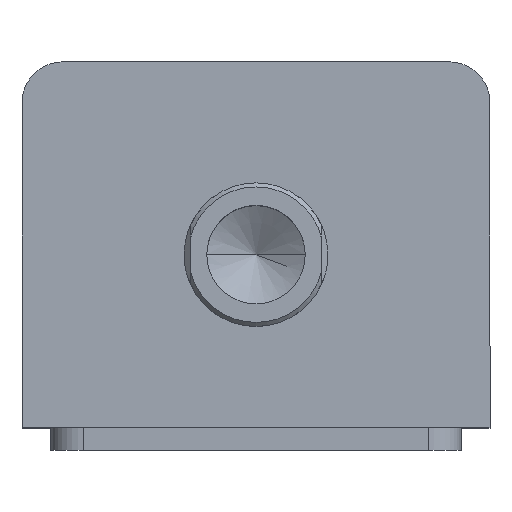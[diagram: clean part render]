
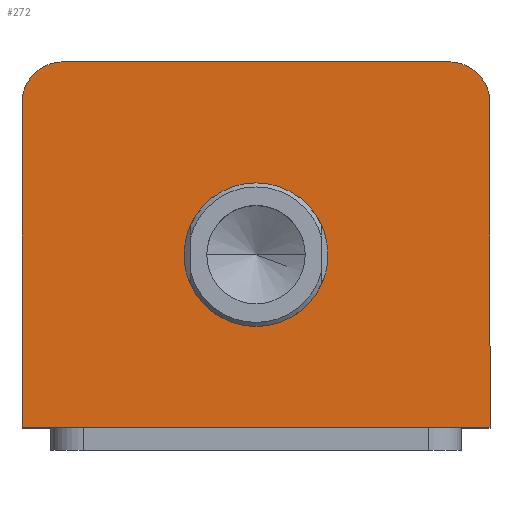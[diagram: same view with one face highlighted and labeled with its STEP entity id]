
A CAD part, top view. The second image highlights one B-rep face of the part: STEP entity #272.
In plain terms, the highlighted planar face has unit normal (0, 0, 1).
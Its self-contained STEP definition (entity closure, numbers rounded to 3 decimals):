
#166 = CARTESIAN_POINT ( 'NONE',  ( -17.5, -2.5, 162. ) ) ;
#167 = CARTESIAN_POINT ( 'NONE',  ( -57., -44.5, 162. ) ) ;
#272 = ADVANCED_FACE ( 'NONE', ( #1934, #1942 ), #1125, .T. ) ;
#461 = ORIENTED_EDGE ( 'NONE', *, *, #3586, .F. ) ;
#462 = ORIENTED_EDGE ( 'NONE', *, *, #3547, .F. ) ;
#463 = ORIENTED_EDGE ( 'NONE', *, *, #3368, .T. ) ;
#464 = ORIENTED_EDGE ( 'NONE', *, *, #3422, .T. ) ;
#465 = ORIENTED_EDGE ( 'NONE', *, *, #3423, .T. ) ;
#466 = ORIENTED_EDGE ( 'NONE', *, *, #3538, .T. ) ;
#467 = ORIENTED_EDGE ( 'NONE', *, *, #3145, .T. ) ;
#468 = ORIENTED_EDGE ( 'NONE', *, *, #3356, .T. ) ;
#746 = LINE ( 'NONE', #976, #749 ) ;
#749 = VECTOR ( 'NONE', #977, 1000. ) ;
#812 = CIRCLE ( 'NONE', #3210, 10. ) ;
#814 = LINE ( 'NONE', #2431, #816 ) ;
#816 = VECTOR ( 'NONE', #2438, 1000. ) ;
#854 = DIRECTION ( 'NONE',  ( 0., 1., 0. ) ) ;
#865 = CARTESIAN_POINT ( 'NONE',  ( 57., 44.5, 162. ) ) ;
#963 = CARTESIAN_POINT ( 'NONE',  ( 47., 34.5, 162. ) ) ;
#964 = DIRECTION ( 'NONE',  ( 0., 0., 1. ) ) ;
#965 = DIRECTION ( 'NONE',  ( 1., 0., 0. ) ) ;
#976 = CARTESIAN_POINT ( 'NONE',  ( -57., 44.5, 162. ) ) ;
#977 = DIRECTION ( 'NONE',  ( -1., 0., 0. ) ) ;
#1072 = CARTESIAN_POINT ( 'NONE',  ( 0., -2.5, 162. ) ) ;
#1073 = DIRECTION ( 'NONE',  ( 0., 0., 1. ) ) ;
#1074 = DIRECTION ( 'NONE',  ( 1., 0., 0. ) ) ;
#1121 = CARTESIAN_POINT ( 'NONE',  ( 0., 0., 162. ) ) ;
#1125 = PLANE ( 'NONE',  #3351 ) ;
#1130 = DIRECTION ( 'NONE',  ( 0., 0., 1. ) ) ;
#1131 = DIRECTION ( 'NONE',  ( 1., 0., 0. ) ) ;
#1244 = LINE ( 'NONE', #1491, #1245 ) ;
#1245 = VECTOR ( 'NONE', #1492, 1000. ) ;
#1247 = CIRCLE ( 'NONE', #3160, 17.5 ) ;
#1308 = CIRCLE ( 'NONE', #3148, 17.5 ) ;
#1491 = CARTESIAN_POINT ( 'NONE',  ( -57., -44.5, 162. ) ) ;
#1492 = DIRECTION ( 'NONE',  ( 1., 0., 0. ) ) ;
#1513 = CARTESIAN_POINT ( 'NONE',  ( 0., -2.5, 162. ) ) ;
#1514 = DIRECTION ( 'NONE',  ( 0., 0., 1. ) ) ;
#1515 = DIRECTION ( 'NONE',  ( 1., 0., 0. ) ) ;
#1561 = CARTESIAN_POINT ( 'NONE',  ( 47., 44.5, 162. ) ) ;
#1562 = CARTESIAN_POINT ( 'NONE',  ( 17.5, -2.5, 162. ) ) ;
#1586 = CARTESIAN_POINT ( 'NONE',  ( 57., -44.5, 162. ) ) ;
#1614 = CARTESIAN_POINT ( 'NONE',  ( 57., 34.5, 162. ) ) ;
#1616 = CARTESIAN_POINT ( 'NONE',  ( -47., 44.5, 162. ) ) ;
#1643 = CARTESIAN_POINT ( 'NONE',  ( -57., 34.5, 162. ) ) ;
#1798 = LINE ( 'NONE', #865, #1804 ) ;
#1804 = VECTOR ( 'NONE', #854, 1000. ) ;
#1851 = CIRCLE ( 'NONE', #3243, 10. ) ;
#1856 = VERTEX_POINT ( 'NONE', #166 ) ;
#1857 = VERTEX_POINT ( 'NONE', #167 ) ;
#1886 = VERTEX_POINT ( 'NONE', #1561 ) ;
#1887 = VERTEX_POINT ( 'NONE', #1562 ) ;
#1934 = FACE_BOUND ( 'NONE', #2364, .T. ) ;
#1942 = FACE_OUTER_BOUND ( 'NONE', #2356, .T. ) ;
#2238 = VERTEX_POINT ( 'NONE', #1586 ) ;
#2268 = VERTEX_POINT ( 'NONE', #1614 ) ;
#2270 = VERTEX_POINT ( 'NONE', #1616 ) ;
#2356 = EDGE_LOOP ( 'NONE', ( #463, #464, #465, #466, #467, #468 ) ) ;
#2364 = EDGE_LOOP ( 'NONE', ( #461, #462 ) ) ;
#2390 = VERTEX_POINT ( 'NONE', #1643 ) ;
#2431 = CARTESIAN_POINT ( 'NONE',  ( -57., 44.5, 162. ) ) ;
#2438 = DIRECTION ( 'NONE',  ( 0., -1., 0. ) ) ;
#2443 = CARTESIAN_POINT ( 'NONE',  ( -47., 34.5, 162. ) ) ;
#2444 = DIRECTION ( 'NONE',  ( 0., 0., 1. ) ) ;
#2445 = DIRECTION ( 'NONE',  ( 1., 0., 0. ) ) ;
#3145 = EDGE_CURVE ( 'NONE', #2238, #2268, #1798, .T. ) ;
#3148 = AXIS2_PLACEMENT_3D ( 'NONE', #1072, #1073, #1074 ) ;
#3160 = AXIS2_PLACEMENT_3D ( 'NONE', #1513, #1514, #1515 ) ;
#3210 = AXIS2_PLACEMENT_3D ( 'NONE', #2443, #2444, #2445 ) ;
#3243 = AXIS2_PLACEMENT_3D ( 'NONE', #963, #964, #965 ) ;
#3351 = AXIS2_PLACEMENT_3D ( 'NONE', #1121, #1130, #1131 ) ;
#3356 = EDGE_CURVE ( 'NONE', #2268, #1886, #1851, .T. ) ;
#3368 = EDGE_CURVE ( 'NONE', #1886, #2270, #746, .T. ) ;
#3422 = EDGE_CURVE ( 'NONE', #2270, #2390, #812, .T. ) ;
#3423 = EDGE_CURVE ( 'NONE', #2390, #1857, #814, .T. ) ;
#3538 = EDGE_CURVE ( 'NONE', #1857, #2238, #1244, .T. ) ;
#3547 = EDGE_CURVE ( 'NONE', #1856, #1887, #1247, .T. ) ;
#3586 = EDGE_CURVE ( 'NONE', #1887, #1856, #1308, .T. ) ;
